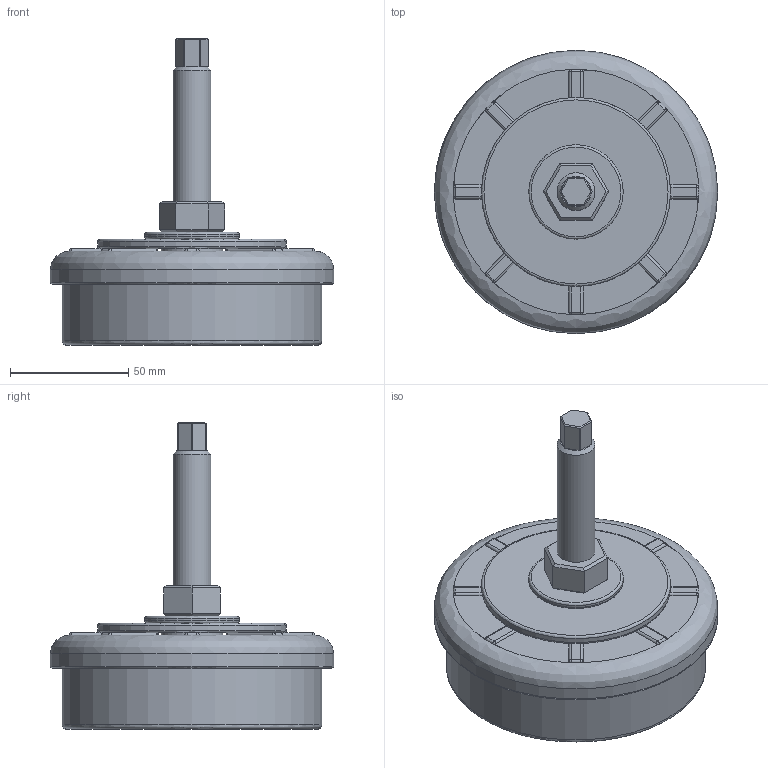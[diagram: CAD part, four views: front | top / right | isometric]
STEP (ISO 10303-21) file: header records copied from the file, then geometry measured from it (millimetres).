
FILE_DESCRIPTION(('STEP AP203'),'2;1');
FILE_NAME('14025.stp','2015-05-12T15:27:06',(''),(''),'2008.1.107','THINKDESIGN','');
FILE_SCHEMA(('CONFIG_CONTROL_DESIGN'));
Length unit declared in the file: millimetre
Bounding box: 120 x 120 x 130 mm (x, y, z)
Volume: 444872.7 mm3; surface area: 74901.6 mm2
Topology: 7 solids, 7 shells, 152 faces, 372 edges, 204 vertices
Faces by surface type: bspline 77, plane 46, cylinder 29
Full cylindrical faces by diameter (mm): 16 x1, 26 x1, 40 x1, 80 x1, 110 x1, 120 x1
Entity records: 9828 total; most frequent: CARTESIAN_POINT 6539, ORIENTED_EDGE 684, DIRECTION 623, EDGE_CURVE 342, AXIS2_PLACEMENT_3D 250, VERTEX_POINT 204, CIRCLE 175, EDGE_LOOP 152
